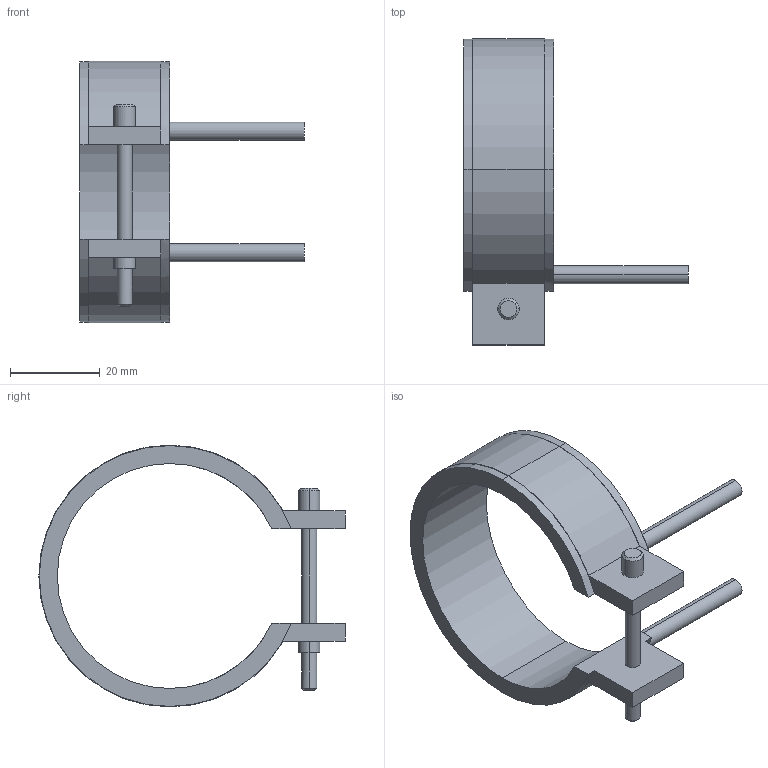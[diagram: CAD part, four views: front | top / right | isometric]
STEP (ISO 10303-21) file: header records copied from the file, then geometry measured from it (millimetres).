
FILE_DESCRIPTION(('CATIA V5 STEP Exchange'),'2;1');
FILE_NAME('C:\Users\Utente\Desktop\IO LAVORO\3D X SITO CF\X SITO\PLASTICA\RF2\14050020.stp','2021-03-31T11:56:02+00:00',('none'),('none'),'CATIA Version 5 Release 20 GA (IN-10)','CATIA V5 STEP AP203','none');
FILE_SCHEMA(('CONFIG_CONTROL_DESIGN'));
Length unit declared in the file: millimetre
Products named in the file (1): 14050020
Bounding box: 50 x 68.1 x 58.2 mm (x, y, z)
Volume: 14877.9 mm3; surface area: 9486.5 mm2
Topology: 1 solids, 1 shells, 45 faces, 116 edges, 76 vertices
Faces by surface type: cylinder 24, plane 17, cone 4
Entity records: 1400 total; most frequent: CARTESIAN_POINT 274, ORIENTED_EDGE 232, DIRECTION 196, EDGE_CURVE 116, AXIS2_PLACEMENT_3D 104, VERTEX_POINT 76, CIRCLE 62, VECTOR 52
